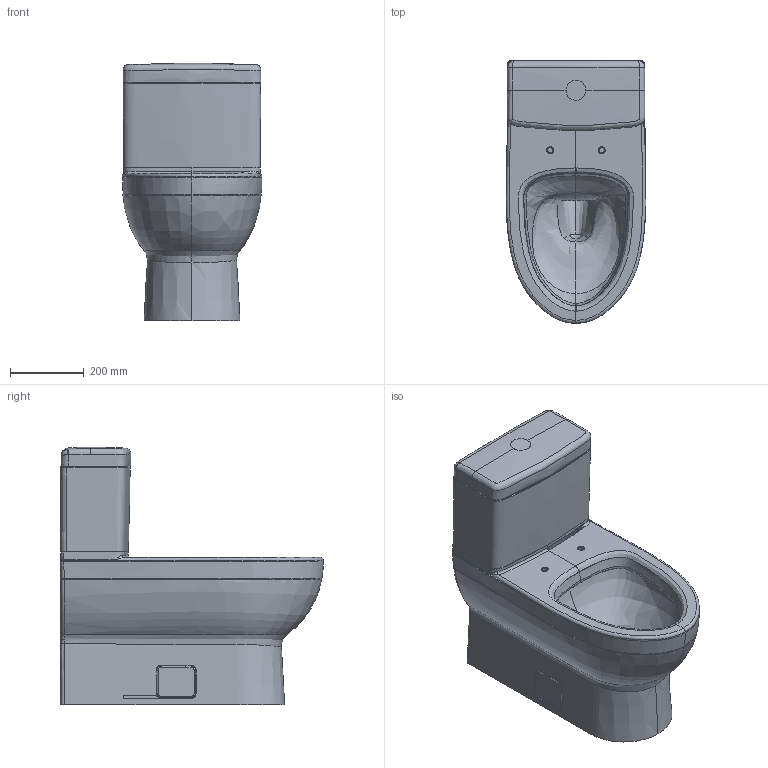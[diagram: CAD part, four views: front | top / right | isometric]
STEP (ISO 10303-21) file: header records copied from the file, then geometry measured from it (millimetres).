
FILE_DESCRIPTION(/* description */ (''),/* implementation_level */ '2;1');
FILE_NAME(/* name */ '6616US_Subway_OnePiece.stp',/* time_stamp */ '2019-02-12T13:13:09+01:00',/* author */ (''),/* organization */ (''),/* preprocessor_version */ 'ST-DEVELOPER v16',/* originating_system */ 'SIEMENS PLM Software NX 10.0',/* authorisation */ '');
FILE_SCHEMA (('AUTOMOTIVE_DESIGN { 1 0 10303 214 3 1 1 1 }'));
Products named in the file (1): math1C541D01swqn
Bounding box: 379.63 x 713.09 x 699.17 mm (x, y, z)
Volume: 71421777.3 mm3; surface area: 1702231.3 mm2
Topology: 1 solids, 1 shells, 248 faces, 630 edges, 370 vertices
Faces by surface type: bspline 174, cylinder 33, plane 27, torus 10, sphere 4
Full cylindrical faces by diameter (mm): 15 x2
Entity records: 42272 total; most frequent: CARTESIAN_POINT 38048, ORIENTED_EDGE 1208, EDGE_CURVE 604, DIRECTION 388, VERTEX_POINT 366, B_SPLINE_CURVE_WITH_KNOTS 348, EDGE_LOOP 256, ADVANCED_FACE 248
